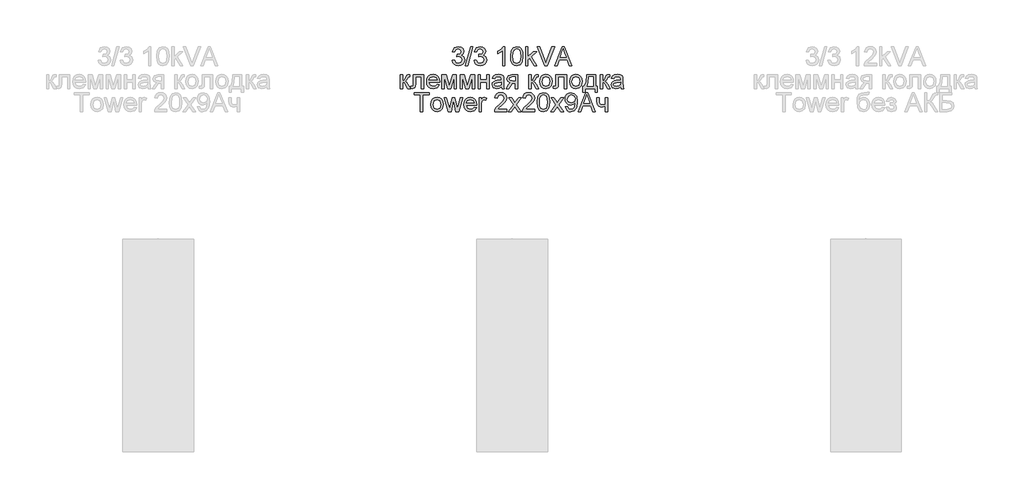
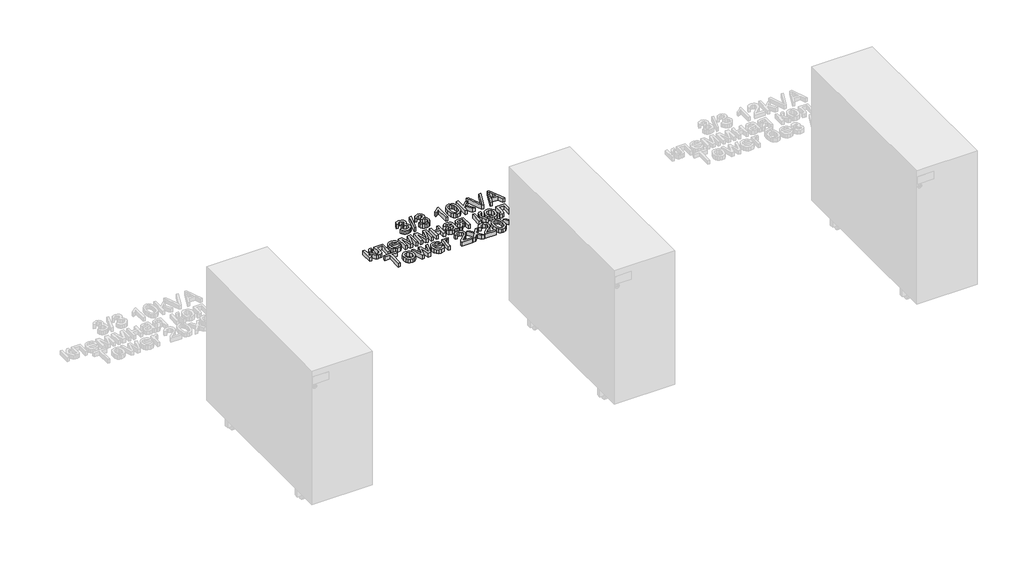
# One storey, part 24 of 74: 1 proxy.
"""IFC4 building model written with IfcOpenShell, lengths in millimetres."""

from ifc_helpers import new_model, si_unit, origin, origin_with_axes, place, context, project, spatial, polyline, outline, extrude, element, save

model = new_model("IFC4")

# Units and contexts
model_context = context("Model", 3, world=origin())
ifc_project = project(units=[si_unit("LENGTHUNIT", "METRE", prefix="MILLI")], contexts=[model_context])

# Site, building, storey
site = spatial("IfcSite", under=ifc_project)
building = spatial("IfcBuilding", under=site)
storey = spatial("IfcBuildingStorey", under=building, Name="Этаж 01", Elevation=0.0)

# Proxy
placement = place(None, origin())
element("IfcBuildingElementProxy", 1, Name="80 мм Arial", ObjectType="80 мм Arial", at=placement, inside=storey, context=model_context, shape_type="SweptSolid", body=[
    extrude(outline(polyline([(8598.3137414, -18752.4422861), (8608.3593724, -18751.1865822), (8613.9021278, -18761.7619633), (8624.2714949, -18764.9993249), (8636.475367, -18760.5455002), (8641.0076732, -18749.5188505), (8636.5146077, -18739.129863), (8625.0955506, -18735.0193948), (8618.0518367, -18736.1181357), (8619.1701979, -18726.0725047), (8620.7790685, -18726.1902269), (8632.1785053, -18723.3060321), (8637.2405615, -18714.4376235), (8633.5715518, -18706.5796641), (8624.114532, -18703.4698349), (8614.5397899, -18706.6090946), (8609.6150762, -18716.0268737), (8599.5694452, -18714.7711698), (8607.7903816, -18699.0160102), (8623.7613652, -18693.4242039), (8635.8769456, -18696.1808663), (8644.3529468, -18703.7150896), (8647.2861926, -18713.8490123), (8644.5000996, -18723.1098284), (8636.2595429, -18729.7611348), (8647.2077111, -18736.6282654), (8651.0533042, -18749.6954339), (8649.1305076, -18759.4860001), (8643.3621179, -18767.6676956), (8634.6555774, -18773.2006408), (8623.9183282, -18775.0449559), (8614.2062435, -18773.470421), (8606.2992332, -18768.7468161), (8600.8006236, -18761.5216138), (8598.3137414, -18752.4422861)])), origin_with_axes(), (0.0, 0.0, 1.0), 20.0),
    extrude(outline(polyline([(8654.8204158, -18773.789252), (8677.4230856, -18693.4242039), (8686.487698, -18693.4242039), (8663.8850282, -18773.789252), (8654.8204158, -18773.789252)])), origin_with_axes(), (0.0, 0.0, 1.0), 20.0),
    extrude(outline(polyline([(8691.2358282, -18752.4422861), (8701.2814593, -18751.1865822), (8706.8242147, -18761.7619633), (8717.1935818, -18764.9993249), (8729.3974539, -18760.5455002), (8733.9297601, -18749.5188505), (8729.4366946, -18739.129863), (8718.0176375, -18735.0193948), (8710.9739236, -18736.1181357), (8712.0922848, -18726.0725047), (8713.7011554, -18726.1902269), (8725.1005922, -18723.3060321), (8730.1626484, -18714.4376235), (8726.4936387, -18706.5796641), (8717.0366188, -18703.4698349), (8707.4618768, -18706.6090946), (8702.5371631, -18716.0268737), (8692.4915321, -18714.7711698), (8700.7124684, -18699.0160102), (8716.6834521, -18693.4242039), (8728.7990325, -18696.1808663), (8737.2750337, -18703.7150896), (8740.2082794, -18713.8490123), (8737.4221865, -18723.1098284), (8729.1816298, -18729.7611348), (8740.129798, -18736.6282654), (8743.9753911, -18749.6954339), (8742.0525945, -18759.4860001), (8736.2842048, -18767.6676956), (8727.5776643, -18773.2006408), (8716.8404151, -18775.0449559), (8707.1283304, -18773.470421), (8699.2213201, -18768.7468161), (8693.7227105, -18761.5216138), (8691.2358282, -18752.4422861)])), origin_with_axes(), (0.0, 0.0, 1.0), 20.0),
    extrude(outline(polyline([(8821.8290314, -18773.789252), (8811.7834004, -18773.789252), (8811.7834004, -18711.1610212), (8802.2675195, -18717.9398601), (8791.6921384, -18723.0117265), (8791.6921384, -18713.5154659), (8806.4172284, -18704.1173072), (8815.3543083, -18693.4242039), (8821.8290314, -18693.4242039), (8821.8290314, -18773.789252)])), origin_with_axes(), (0.0, 0.0, 1.0), 20.0),
    extrude(outline(polyline([(8845.6874051, -18734.2542003), (8848.6402712, -18711.1315906), (8857.410578, -18697.7995471), (8872.0571865, -18693.4242039), (8883.7901696, -18696.0140932), (8891.8933837, -18703.4796451), (8896.6022732, -18715.3695912), (8898.4269679, -18734.2542003), (8895.5035323, -18757.2787081), (8886.7626561, -18770.6401821), (8872.0571865, -18775.0449559), (8861.619148, -18773.1319695), (8853.6925173, -18767.3930104), (8847.6886832, -18753.800997), (8845.6874051, -18734.2542003)]), holes=[polyline([(8855.7330361, -18734.2345799), (8856.9102585, -18750.0363379), (8860.4419257, -18759.1818843), (8872.0571865, -18764.9993249), (8883.6724474, -18759.1622639), (8887.2041145, -18750.0118124), (8888.3813369, -18734.2345799), (8887.2433553, -18718.7884412), (8883.8294104, -18709.5717709), (8878.5809606, -18704.9953189), (8871.9394643, -18703.4698349), (8860.5988886, -18708.8458171), (8856.9494992, -18718.6363833), (8855.7330361, -18734.2345799)])]), origin_with_axes(), (0.0, 0.0, 1.0), 20.0),
    extrude(outline(polyline([(8909.7283028, -18773.789252), (8909.7283028, -18693.4242039), (8919.7739338, -18693.4242039), (8919.7739338, -18736.608645), (8942.2981221, -18714.7711698), (8956.1893463, -18714.7711698), (8933.3904728, -18736.8833303), (8957.4450501, -18773.789252), (8945.712067, -18773.789252), (8926.1897958, -18743.8681831), (8919.7739338, -18750.0878413), (8919.7739338, -18773.789252), (8909.7283028, -18773.789252)])), origin_with_axes(), (0.0, 0.0, 1.0), 20.0),
    extrude(outline(polyline([(9032.2182919, -18773.789252), (9064.2976019, -18693.4242039), (9072.8520846, -18693.4242039), (9104.9313946, -18773.789252), (9094.3167727, -18773.789252), (9085.1148177, -18748.6751745), (9052.0152484, -18748.6751745), (9042.8329138, -18773.789252), (9032.2182919, -18773.789252)]), holes=[polyline([(9055.7038785, -18738.6295435), (9081.445808, -18738.6295435), (9074.2058903, -18718.8718278), (9068.5748432, -18703.4698349), (9063.5716481, -18717.145235), (9055.7038785, -18738.6295435)])]), origin_with_axes(), (0.0, 0.0, 1.0), 20.0),
    extrude(outline(polyline([(8991.2313326, -18773.789252), (8959.2501245, -18693.4242039), (8970.0020889, -18693.4242039), (8991.4079159, -18751.3239249), (8995.7440184, -18764.3714729), (9000.0212597, -18751.3239249), (9021.4859479, -18693.4242039), (9032.2379123, -18693.4242039), (9001.6105099, -18773.789252), (8991.2313326, -18773.789252)])), origin_with_axes(), (0.0, 0.0, 1.0), 20.0),
    extrude(outline(polyline([(8433.1886815, -18812.3510241), (8478.3940211, -18812.3510241), (8478.3940211, -18871.3102452), (8468.3483901, -18871.3102452), (8468.3483901, -18822.3966551), (8443.2343126, -18822.3966551), (8443.2343126, -18850.5518905), (8442.5574097, -18863.5405774), (8438.839349, -18869.0244717), (8430.0494219, -18871.3691063), (8421.8873467, -18870.8589766), (8421.8873467, -18861.3234753), (8426.3804121, -18861.3234753), (8430.9225285, -18860.7054335), (8432.737413, -18858.7433962), (8433.1886815, -18849.9828996), (8433.1886815, -18812.3510241)])), origin_with_axes(), (0.0, 0.0, 1.0), 20.0),
    extrude(outline(polyline([(8379.1934148, -18812.3510241), (8389.2390459, -18812.3510241), (8389.2390459, -18837.4651016), (8395.9688338, -18835.6600273), (8401.4821587, -18825.1435073), (8406.0635158, -18816.0690848), (8410.1053126, -18813.1162186), (8417.4531423, -18812.3510241), (8419.3759389, -18812.3510241), (8419.3759389, -18822.4555162), (8416.6683274, -18822.3966551), (8411.7632341, -18823.4561553), (8408.3100485, -18830.068221), (8404.2584414, -18837.219847), (8398.5783434, -18840.7220836), (8404.9157239, -18844.6314429), (8411.1353822, -18852.8670945), (8421.8873467, -18871.3691063), (8410.4682895, -18871.3691063), (8399.9321492, -18853.259502), (8394.6346485, -18845.5977463), (8389.2390459, -18843.743621), (8389.2390459, -18871.3691063), (8379.1934148, -18871.3691063), (8379.1934148, -18812.3510241)])), origin_with_axes(), (0.0, 0.0, 1.0), 20.0),
    extrude(outline(polyline([(8534.7829733, -18853.789252), (8544.6324006, -18855.0449559), (8535.4206355, -18868.0140225), (8518.2626192, -18872.6248102), (8506.4756801, -18870.6357949), (8497.4061626, -18864.6687489), (8491.6230577, -18855.1111747), (8489.695356, -18842.3505745), (8491.642678, -18829.1607787), (8497.4846441, -18819.2966362), (8506.4315342, -18813.1456492), (8517.6936284, -18811.0953202), (8528.6050084, -18813.1407441), (8537.3238116, -18819.2770158), (8543.0406979, -18829.121538), (8544.9463266, -18842.2917134), (8544.8874655, -18844.9993249), (8499.740987, -18844.9993249), (8505.5191869, -18858.046873), (8518.4588229, -18862.5791792), (8528.3082502, -18860.4797992), (8534.7829733, -18853.789252)]), holes=[polyline([(8499.740987, -18834.9536939), (8534.9006956, -18834.9536939), (8530.8785191, -18825.8498408), (8517.6543876, -18821.1409512), (8505.2837424, -18824.8982527), (8499.740987, -18834.9536939)])]), origin_with_axes(), (0.0, 0.0, 1.0), 20.0),
    extrude(outline(polyline([(8554.9919576, -18812.3510241), (8572.2775063, -18812.3510241), (8585.5997396, -18859.5968825), (8599.9618527, -18812.3510241), (8616.5214476, -18812.3510241), (8616.5214476, -18871.3691063), (8606.4758166, -18871.3691063), (8606.4758166, -18823.8485627), (8592.035222, -18871.3691063), (8578.8503313, -18871.3691063), (8565.0375886, -18821.5725994), (8565.0375886, -18871.3691063), (8554.9919576, -18871.3691063), (8554.9919576, -18812.3510241)])), origin_with_axes(), (0.0, 0.0, 1.0), 20.0),
    extrude(outline(polyline([(8631.5898941, -18812.3510241), (8648.8754428, -18812.3510241), (8662.1976761, -18859.5968825), (8676.5597892, -18812.3510241), (8693.1193841, -18812.3510241), (8693.1193841, -18871.3691063), (8683.073753, -18871.3691063), (8683.073753, -18823.8485627), (8668.6331585, -18871.3691063), (8655.4482678, -18871.3691063), (8641.6355251, -18821.5725994), (8641.6355251, -18871.3691063), (8631.5898941, -18871.3691063), (8631.5898941, -18812.3510241)])), origin_with_axes(), (0.0, 0.0, 1.0), 20.0),
    extrude(outline(polyline([(8708.1878306, -18812.3510241), (8718.2334616, -18812.3510241), (8718.2334616, -18834.9536939), (8744.603243, -18834.9536939), (8744.603243, -18812.3510241), (8754.648874, -18812.3510241), (8754.648874, -18871.3691063), (8744.603243, -18871.3691063), (8744.603243, -18844.9993249), (8718.2334616, -18844.9993249), (8718.2334616, -18871.3691063), (8708.1878306, -18871.3691063), (8708.1878306, -18812.3510241)])), origin_with_axes(), (0.0, 0.0, 1.0), 20.0),
    extrude(outline(polyline([(8807.3884369, -18863.834883), (8797.6469216, -18870.6431525), (8786.885147, -18872.6248102), (8772.2973996, -18867.8570595), (8767.2059128, -18855.6728078), (8769.1287094, -18847.7265567), (8774.1809554, -18841.9581671), (8781.2148592, -18838.6619444), (8789.9066844, -18837.1511757), (8807.3295757, -18833.69799), (8807.3884369, -18831.4612675), (8804.6219643, -18824.0447664), (8793.5168331, -18821.1409512), (8783.3534798, -18823.073558), (8778.5072477, -18829.9308784), (8768.4616167, -18828.6751745), (8772.8075293, -18818.864988), (8781.5582157, -18813.1162186), (8794.8117777, -18811.0953202), (8806.9862192, -18812.8807742), (8813.86316, -18817.3640294), (8816.9435585, -18824.1821091), (8817.4340679, -18832.9720362), (8817.4340679, -18845.4702138), (8817.9441976, -18862.9225357), (8819.9454756, -18871.3691063), (8809.8998446, -18871.3691063), (8807.3884369, -18863.834883)]), holes=[polyline([(8807.3884369, -18843.743621), (8791.1820087, -18846.8240196), (8782.5392344, -18848.4525105), (8778.6249699, -18851.1012609), (8777.2515438, -18854.9664744), (8780.2436507, -18860.4013178), (8789.0237677, -18862.5791792), (8799.1871209, -18860.1756835), (8805.7403255, -18854.3582428), (8807.3295757, -18846.5885751), (8807.3884369, -18843.743621)])]), origin_with_axes(), (0.0, 0.0, 1.0), 20.0),
    extrude(outline(polyline([(8876.4521501, -18812.3510241), (8876.4521501, -18871.3691063), (8866.4065191, -18871.3691063), (8866.4065191, -18848.7664365), (8860.932435, -18848.7664365), (8853.4766932, -18850.0417608), (8846.47222, -18858.6158638), (8838.4671078, -18871.3691063), (8826.8518469, -18871.3691063), (8836.9367187, -18855.2411596), (8845.4912014, -18846.8828807), (8833.797459, -18840.7809447), (8829.9911066, -18829.4011283), (8835.1905055, -18817.079534), (8850.2393317, -18812.3510241), (8876.4521501, -18812.3510241)]), holes=[polyline([(8866.4065191, -18822.3966551), (8853.1627672, -18822.3966551), (8842.4402334, -18824.7216693), (8840.0367377, -18830.1663228), (8843.578215, -18836.6508561), (8856.1254436, -18838.7208055), (8866.4065191, -18838.7208055), (8866.4065191, -18822.3966551)])]), origin_with_axes(), (0.0, 0.0, 1.0), 20.0),
    extrude(outline(polyline([(8922.9131935, -18812.3510241), (8932.9588245, -18812.3510241), (8932.9588245, -18837.4651016), (8939.6886125, -18835.6600273), (8945.2019373, -18825.1435073), (8949.7832945, -18816.0690848), (8953.8250913, -18813.1162186), (8961.172921, -18812.3510241), (8963.0957176, -18812.3510241), (8963.0957176, -18822.4555162), (8960.3881061, -18822.3966551), (8955.4830128, -18823.4561553), (8952.0298272, -18830.068221), (8947.9782201, -18837.219847), (8942.2981221, -18840.7220836), (8948.6355026, -18844.6314429), (8954.8551609, -18852.8670945), (8965.6071253, -18871.3691063), (8954.1880682, -18871.3691063), (8943.6519279, -18853.259502), (8938.3544271, -18845.5977463), (8932.9588245, -18843.743621), (8932.9588245, -18871.3691063), (8922.9131935, -18871.3691063), (8922.9131935, -18812.3510241)])), origin_with_axes(), (0.0, 0.0, 1.0), 20.0),
    extrude(outline(polyline([(8969.374237, -18841.8600652), (8971.5471933, -18827.6303896), (8978.0660622, -18817.6289044), (8986.1202254, -18812.7287163), (8995.7636388, -18811.0953202), (9006.3169469, -18813.0843355), (9014.7463497, -18819.0513815), (9020.2719373, -18828.5255691), (9022.1137998, -18841.0360095), (9018.8568179, -18858.9101694), (9009.3703675, -18869.0244717), (8995.7636388, -18872.6248102), (8985.0827982, -18870.6431525), (8976.6632056, -18864.6981795), (8971.1964791, -18855.0253355), (8969.374237, -18841.8600652)]), holes=[polyline([(8979.419868, -18841.8404448), (8984.0698964, -18857.4092109), (8995.7636388, -18862.5791792), (9007.4181404, -18857.3797803), (9012.0681688, -18841.5265189), (9007.3887098, -18826.3109195), (8995.7636388, -18821.1409512), (8984.0698964, -18826.2912992), (8979.419868, -18841.8404448)])]), origin_with_axes(), (0.0, 0.0, 1.0), 20.0),
    extrude(outline(polyline([(9038.4379502, -18812.3510241), (9083.6432898, -18812.3510241), (9083.6432898, -18871.3102452), (9073.5976588, -18871.3102452), (9073.5976588, -18822.3966551), (9048.4835812, -18822.3966551), (9048.4835812, -18850.5518905), (9047.8066783, -18863.5405774), (9044.0886176, -18869.0244717), (9035.2986905, -18871.3691063), (9027.1366153, -18870.8589766), (9027.1366153, -18861.3234753), (9031.6296807, -18861.3234753), (9036.1717971, -18860.7054335), (9037.9866816, -18858.7433962), (9038.4379502, -18849.9828996), (9038.4379502, -18812.3510241)])), origin_with_axes(), (0.0, 0.0, 1.0), 20.0),
    extrude(outline(polyline([(9096.2003285, -18841.8600652), (9098.3732849, -18827.6303896), (9104.8921538, -18817.6289044), (9112.946317, -18812.7287163), (9122.5897303, -18811.0953202), (9133.1430385, -18813.0843355), (9141.5724413, -18819.0513815), (9147.0980288, -18828.5255691), (9148.9398914, -18841.0360095), (9145.6829094, -18858.9101694), (9136.1964591, -18869.0244717), (9122.5897303, -18872.6248102), (9111.9088897, -18870.6431525), (9103.4892971, -18864.6981795), (9098.0225707, -18855.0253355), (9096.2003285, -18841.8600652)]), holes=[polyline([(9106.2459596, -18841.8404448), (9110.895988, -18857.4092109), (9122.5897303, -18862.5791792), (9134.2442319, -18857.3797803), (9138.8942603, -18841.5265189), (9134.2148014, -18826.3109195), (9122.5897303, -18821.1409512), (9110.895988, -18826.2912992), (9106.2459596, -18841.8404448)])]), origin_with_axes(), (0.0, 0.0, 1.0), 20.0),
    extrude(outline(polyline([(9169.0311534, -18812.3510241), (9206.7022697, -18812.3510241), (9206.7022697, -18861.3234753), (9214.236493, -18861.3234753), (9214.236493, -18887.6932567), (9204.1908619, -18887.6932567), (9204.1908619, -18871.3691063), (9162.752634, -18871.3691063), (9162.752634, -18887.6932567), (9152.707003, -18887.6932567), (9152.707003, -18861.3234753), (9158.9855224, -18861.3234753), (9166.7453799, -18842.164181), (9169.0311534, -18812.3510241)]), holes=[polyline([(9177.8210805, -18822.3966551), (9175.4666358, -18845.2838203), (9170.2868573, -18861.3234753), (9196.6566387, -18861.3234753), (9196.6566387, -18822.3966551), (9177.8210805, -18822.3966551)])]), origin_with_axes(), (0.0, 0.0, 1.0), 20.0),
    extrude(outline(polyline([(9225.5378279, -18812.3510241), (9235.5834589, -18812.3510241), (9235.5834589, -18837.4651016), (9242.3132468, -18835.6600273), (9247.8265717, -18825.1435073), (9252.4079288, -18816.0690848), (9256.4497256, -18813.1162186), (9263.7975554, -18812.3510241), (9265.7203519, -18812.3510241), (9265.7203519, -18822.4555162), (9263.0127404, -18822.3966551), (9258.1076472, -18823.4561553), (9254.6544615, -18830.068221), (9250.6028545, -18837.219847), (9244.9227565, -18840.7220836), (9251.260137, -18844.6314429), (9257.4797952, -18852.8670945), (9268.2317597, -18871.3691063), (9256.8127025, -18871.3691063), (9246.2765622, -18853.259502), (9240.9790615, -18845.5977463), (9235.5834589, -18843.743621), (9235.5834589, -18871.3691063), (9225.5378279, -18871.3691063), (9225.5378279, -18812.3510241)])), origin_with_axes(), (0.0, 0.0, 1.0), 20.0),
    extrude(outline(polyline([(9312.1813954, -18863.834883), (9302.4398801, -18870.6431525), (9291.6781055, -18872.6248102), (9277.0903581, -18867.8570595), (9271.9988713, -18855.6728078), (9273.9216679, -18847.7265567), (9278.9739139, -18841.9581671), (9286.0078177, -18838.6619444), (9294.6996429, -18837.1511757), (9312.1225342, -18833.69799), (9312.1813954, -18831.4612675), (9309.4149228, -18824.0447664), (9298.3097916, -18821.1409512), (9288.1464383, -18823.073558), (9283.3002062, -18829.9308784), (9273.2545752, -18828.6751745), (9277.6004878, -18818.864988), (9286.3511742, -18813.1162186), (9299.6047362, -18811.0953202), (9311.7791777, -18812.8807742), (9318.6561185, -18817.3640294), (9321.736517, -18824.1821091), (9322.2270264, -18832.9720362), (9322.2270264, -18845.4702138), (9322.7371561, -18862.9225357), (9324.7384341, -18871.3691063), (9314.6928031, -18871.3691063), (9312.1813954, -18863.834883)]), holes=[polyline([(9312.1813954, -18843.743621), (9295.9749672, -18846.8240196), (9287.3321929, -18848.4525105), (9283.4179284, -18851.1012609), (9282.0445023, -18854.9664744), (9285.0366092, -18860.4013178), (9293.8167262, -18862.5791792), (9303.9800794, -18860.1756835), (9310.533284, -18854.3582428), (9312.1225342, -18846.5885751), (9312.1813954, -18843.743621)])]), origin_with_axes(), (0.0, 0.0, 1.0), 20.0),
    extrude(outline(polyline([(8463.9534265, -18968.9489606), (8463.9534265, -18898.6295435), (8437.5836451, -18898.6295435), (8437.5836451, -18888.5839125), (8500.368839, -18888.5839125), (8500.368839, -18898.6295435), (8473.9990575, -18898.6295435), (8473.9990575, -18968.9489606), (8463.9534265, -18968.9489606)])), origin_with_axes(), (0.0, 0.0, 1.0), 20.0),
    extrude(outline(polyline([(8507.9030622, -18939.4399195), (8510.0760185, -18925.2102439), (8516.5948875, -18915.2087587), (8524.6490506, -18910.3085705), (8534.292464, -18908.6751745), (8544.8457722, -18910.6641898), (8553.275175, -18916.6312358), (8558.8007625, -18926.1054234), (8560.6426251, -18938.6158638), (8557.3856431, -18956.4900237), (8547.8991927, -18966.604326), (8534.292464, -18970.2046645), (8523.6116234, -18968.2230068), (8515.1920308, -18962.2780337), (8509.7253044, -18952.6051898), (8507.9030622, -18939.4399195)]), holes=[polyline([(8517.9486932, -18939.4202991), (8522.5987217, -18954.9890651), (8534.292464, -18960.1590334), (8545.9469656, -18954.9596346), (8550.596994, -18939.1063731), (8545.9175351, -18923.8907738), (8534.292464, -18918.7208055), (8522.5987217, -18923.8711534), (8517.9486932, -18939.4202991)])]), origin_with_axes(), (0.0, 0.0, 1.0), 20.0),
    extrude(outline(polyline([(8581.7345261, -18968.9489606), (8563.7818847, -18909.9308784), (8574.2199232, -18909.9308784), (8584.4028968, -18944.3646331), (8587.4440547, -18956.666607), (8589.9358421, -18944.8159017), (8598.0390561, -18909.9308784), (8610.0074837, -18909.9308784), (8618.071457, -18944.7177998), (8620.2885592, -18955.4501439), (8623.4670596, -18944.1291886), (8633.6696536, -18909.9308784), (8644.1469329, -18909.9308784), (8626.0569489, -18968.9489606), (8613.911938, -18968.9489606), (8606.2011313, -18934.3386225), (8603.9644088, -18923.5474173), (8594.0168797, -18968.9489606), (8581.7345261, -18968.9489606)])), origin_with_axes(), (0.0, 0.0, 1.0), 20.0),
    extrude(outline(polyline([(8692.3738099, -18951.3691063), (8702.2232372, -18952.6248102), (8693.011472, -18965.5938768), (8675.8534558, -18970.2046645), (8664.0665166, -18968.2156491), (8654.9969992, -18962.2486032), (8649.2138942, -18952.6910289), (8647.2861926, -18939.9304288), (8649.2335146, -18926.740633), (8655.0754807, -18916.8764904), (8664.0223708, -18910.7255035), (8675.2844649, -18908.6751745), (8686.1958449, -18910.7205984), (8694.9146482, -18916.8568701), (8700.6315344, -18926.7013923), (8702.5371631, -18939.8715677), (8702.478302, -18942.5791792), (8657.3318236, -18942.5791792), (8663.1100234, -18955.6267273), (8676.0496595, -18960.1590334), (8685.8990868, -18958.0596535), (8692.3738099, -18951.3691063)]), holes=[polyline([(8657.3318236, -18932.5335481), (8692.4915321, -18932.5335481), (8688.4693556, -18923.429695), (8675.2452242, -18918.7208055), (8662.874579, -18922.4781069), (8657.3318236, -18932.5335481)])]), origin_with_axes(), (0.0, 0.0, 1.0), 20.0),
    extrude(outline(polyline([(8712.5827942, -18968.9489606), (8712.5827942, -18909.9308784), (8721.3727213, -18909.9308784), (8721.3727213, -18918.6619444), (8727.6119999, -18910.6175914), (8733.8905193, -18908.6751745), (8743.9753911, -18911.7751934), (8740.6203073, -18920.7809447), (8733.556973, -18918.7208055), (8727.876875, -18920.7024632), (8724.2569161, -18926.1961676), (8722.6284252, -18937.9291507), (8722.6284252, -18968.9489606), (8712.5827942, -18968.9489606)])), origin_with_axes(), (0.0, 0.0, 1.0), 20.0),
    extrude(outline(polyline([(8830.6189586, -18958.9033296), (8830.6189586, -18968.9489606), (8777.8793957, -18968.9489606), (8778.9585163, -18962.0229689), (8785.0604523, -18951.3592961), (8797.6371114, -18939.7146047), (8814.9815212, -18922.9784265), (8819.3176237, -18911.5986101), (8815.2267759, -18902.3868449), (8804.5434828, -18898.6295435), (8793.408921, -18902.2985532), (8789.1807306, -18912.4422861), (8779.1350996, -18911.1865822), (8781.5704784, -18901.4695925), (8786.8360961, -18894.3719225), (8794.6572673, -18890.030915), (8804.7593069, -18888.5839125), (8814.9349228, -18890.1927831), (8822.7413788, -18895.0193948), (8827.7077857, -18902.2298819), (8829.3632547, -18910.9903785), (8827.5778008, -18920.5160696), (8821.6426379, -18930.3654969), (8807.2510942, -18944.1291886), (8795.6946945, -18953.7922224), (8791.1623883, -18958.9033296), (8830.6189586, -18958.9033296)])), origin_with_axes(), (0.0, 0.0, 1.0), 20.0),
    extrude(outline(polyline([(8836.897478, -18968.9489606), (8858.3621661, -18939.2829565), (8838.1531818, -18909.9308784), (8850.2393317, -18909.9308784), (8859.9906571, -18924.057547), (8864.5425836, -18930.7284738), (8868.4862786, -18925.2740101), (8879.5914098, -18909.9308784), (8891.6775596, -18909.9308784), (8870.4483159, -18939.2829565), (8890.8927447, -18968.9489606), (8878.8065949, -18968.9489606), (8866.5046209, -18951.1140415), (8864.248278, -18947.8570595), (8848.9836278, -18968.9489606), (8836.897478, -18968.9489606)])), origin_with_axes(), (0.0, 0.0, 1.0), 20.0),
    extrude(outline(polyline([(8948.655123, -18958.9033296), (8948.655123, -18968.9489606), (8895.9155602, -18968.9489606), (8896.9946807, -18962.0229689), (8903.0966167, -18951.3592961), (8915.6732759, -18939.7146047), (8933.0176857, -18922.9784265), (8937.3537881, -18911.5986101), (8933.2629403, -18902.3868449), (8922.5796472, -18898.6295435), (8911.4450855, -18902.2985532), (8907.2168951, -18912.4422861), (8897.1712641, -18911.1865822), (8899.6066429, -18901.4695925), (8904.8722605, -18894.3719225), (8912.6934317, -18890.030915), (8922.7954713, -18888.5839125), (8932.9710873, -18890.1927831), (8940.7775432, -18895.0193948), (8945.7439501, -18902.2298819), (8947.3994191, -18910.9903785), (8945.6139652, -18920.5160696), (8939.6788023, -18930.3654969), (8925.2872587, -18944.1291886), (8913.7308589, -18953.7922224), (8909.1985527, -18958.9033296), (8948.655123, -18958.9033296)])), origin_with_axes(), (0.0, 0.0, 1.0), 20.0),
    extrude(outline(polyline([(8958.700754, -18929.4139088), (8961.6536202, -18906.2912992), (8970.4239269, -18892.9592557), (8985.0705354, -18888.5839125), (8996.8035185, -18891.1738017), (9004.9067326, -18898.6393537), (9009.6156222, -18910.5292997), (9011.4403168, -18929.4139088), (9008.5168813, -18952.4384166), (8999.7760051, -18965.7998907), (8985.0705354, -18970.2046645), (8974.632497, -18968.2916781), (8966.7058662, -18962.552719), (8960.7020321, -18948.9607055), (8958.700754, -18929.4139088)]), holes=[polyline([(8968.746385, -18929.3942885), (8969.9236074, -18945.1960464), (8973.4552746, -18954.3415928), (8985.0705354, -18960.1590334), (8996.6857963, -18954.3219724), (9000.2174634, -18945.171521), (9001.3946858, -18929.3942885), (9000.2567042, -18913.9481498), (8996.8427593, -18904.7314795), (8991.5943095, -18900.1550275), (8984.9528132, -18898.6295435), (8973.6122376, -18904.0055257), (8969.9628482, -18913.7960919), (8968.746385, -18929.3942885)])]), origin_with_axes(), (0.0, 0.0, 1.0), 20.0),
    extrude(outline(polyline([(9016.4631324, -18968.9489606), (9037.9278205, -18939.2829565), (9017.7188362, -18909.9308784), (9029.804986, -18909.9308784), (9039.5563115, -18924.057547), (9044.108238, -18930.7284738), (9048.051933, -18925.2740101), (9059.1570642, -18909.9308784), (9071.243214, -18909.9308784), (9050.0139703, -18939.2829565), (9070.4583991, -18968.9489606), (9058.3722492, -18968.9489606), (9046.0702753, -18951.1140415), (9043.8139324, -18947.8570595), (9028.5492822, -18968.9489606), (9016.4631324, -18968.9489606)])), origin_with_axes(), (0.0, 0.0, 1.0), 20.0),
    extrude(outline(polyline([(9077.9926223, -18948.8576985), (9088.0382533, -18947.6019947), (9092.5509391, -18957.1865469), (9101.1054218, -18960.1590334), (9109.2380664, -18958.2460471), (9114.7513913, -18953.1349399), (9118.0378038, -18944.4038739), (9119.4897114, -18932.7493723), (9119.4308503, -18930.7873349), (9111.3963075, -18938.4000397), (9100.379468, -18941.3234753), (9091.2192063, -18939.5380213), (9083.5942388, -18934.1816595), (9078.4512485, -18925.9067671), (9076.7369184, -18915.3657217), (9078.5346351, -18904.4764147), (9083.9277852, -18895.9415524), (9092.0285467, -18890.4233224), (9101.9490978, -18888.5839125), (9116.26216, -18892.7826723), (9126.1115873, -18904.7510999), (9129.4764813, -18927.2360474), (9126.1213975, -18951.6339813), (9116.1444378, -18965.4565342), (9100.6345329, -18970.2046645), (9092.0457145, -18968.8042603), (9085.1932992, -18964.6030479), (9077.9926223, -18948.8576985)]), holes=[polyline([(9119.4308503, -18915.1302772), (9115.0947478, -18903.0833682), (9103.5775888, -18898.6295435), (9091.491439, -18903.4267247), (9086.7825495, -18915.856231), (9091.2363741, -18926.9907928), (9103.3029036, -18931.2778443), (9114.8887339, -18926.9907928), (9119.4308503, -18915.1302772)])]), origin_with_axes(), (0.0, 0.0, 1.0), 20.0),
    extrude(outline(polyline([(9132.6746021, -18968.9489606), (9164.7539121, -18888.5839125), (9173.3083947, -18888.5839125), (9205.3877047, -18968.9489606), (9194.7730829, -18968.9489606), (9185.5711279, -18943.834883), (9152.4715585, -18943.834883), (9143.2892239, -18968.9489606), (9132.6746021, -18968.9489606)]), holes=[polyline([(9156.1601887, -18933.789252), (9181.9021181, -18933.789252), (9174.6622005, -18914.0315363), (9169.0311534, -18898.6295435), (9164.0279583, -18912.3049435), (9156.1601887, -18933.789252)])]), origin_with_axes(), (0.0, 0.0, 1.0), 20.0),
    extrude(outline(polyline([(9211.0972333, -18909.9308784), (9221.1428643, -18909.9308784), (9221.1428643, -18921.2518336), (9221.9571098, -18931.8664555), (9225.8713742, -18937.6152248), (9233.6410419, -18940.0677714), (9247.5126457, -18937.0266136), (9247.5126457, -18909.9308784), (9257.5582767, -18909.9308784), (9257.5582767, -18968.9489606), (9247.5126457, -18968.9489606), (9247.5126457, -18946.6602168), (9230.9530508, -18950.1134024), (9219.5634243, -18946.513064), (9212.8630668, -18937.6937063), (9211.0972333, -18926.215788), (9211.0972333, -18909.9308784)])), origin_with_axes(), (0.0, 0.0, 1.0), 20.0),
])

save(model, "model.ifc")
